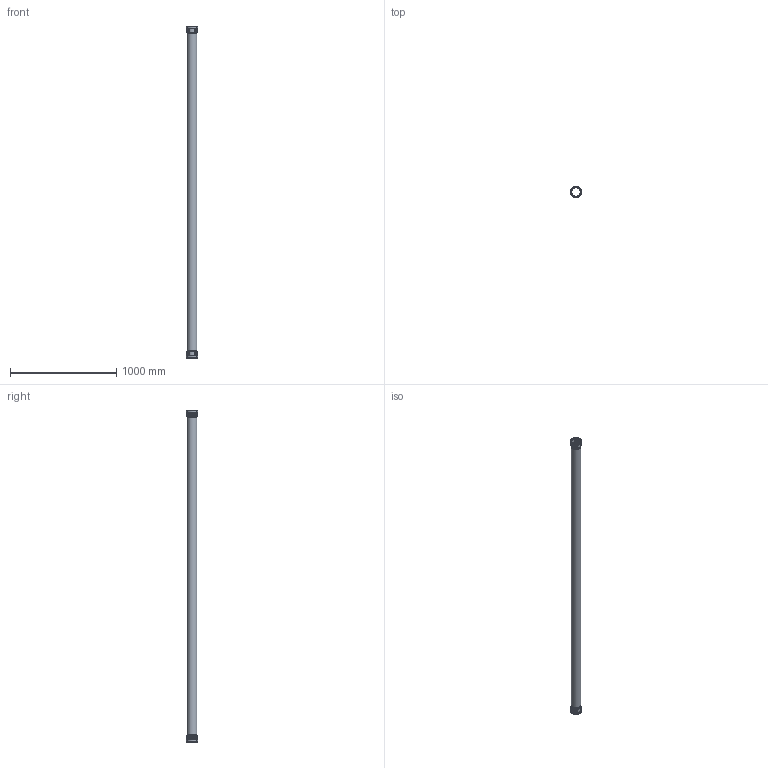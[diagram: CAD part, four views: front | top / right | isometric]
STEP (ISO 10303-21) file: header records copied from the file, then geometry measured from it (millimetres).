
FILE_DESCRIPTION(/* description */ (''),/* implementation_level */ '2;1');
FILE_NAME(/* name */ 'Z:\Geberit\Export\NewStep\Rohr2Muffen_Iassembly\stp\390414.stp',/* time_stamp */ '2014-04-03T17:50:34+02:00',/* author */ ('ML'),/* organization */ (''),/* preprocessor_version */ 'ST-DEVELOPER v15.2',/* originating_system */ 'Autodesk Inventor 2014',/* authorisation */ '');
FILE_SCHEMA (('AUTOMOTIVE_DESIGN { 1 0 10303 214 3 1 1 }'));
Length unit declared in the file: millimetre
Products named in the file (3): 861549; 861584ohne; 390414
Bounding box: 105.4 x 105.4 x 3122 mm (x, y, z)
Volume: 2697237.7 mm3; surface area: 1746440.3 mm2
Topology: 3 solids, 3 shells, 88 faces, 198 edges, 136 vertices
Faces by surface type: torus 48, cylinder 20, plane 18, cone 2
Full cylindrical faces by diameter (mm): 84 x3, 90.2 x3, 91 x4, 94.1 x2, 97.2 x4, 99.2 x2, 105.4 x2
Entity records: 1990 total; most frequent: CARTESIAN_POINT 960, DIRECTION 180, ORIENTED_EDGE 172, AXIS2_PLACEMENT_3D 90, EDGE_CURVE 86, EDGE_LOOP 76, VERTEX_POINT 70, B_SPLINE_CURVE_WITH_KNOTS 48
